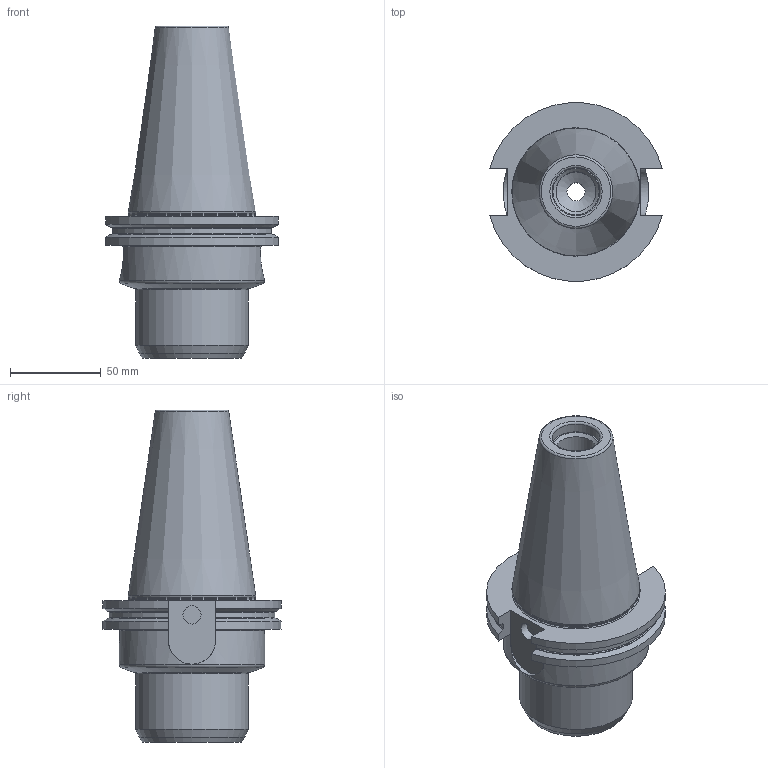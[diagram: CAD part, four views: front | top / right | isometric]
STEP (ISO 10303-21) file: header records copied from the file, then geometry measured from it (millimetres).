
FILE_DESCRIPTION( ( 'STEP AP214' ), '1' );
FILE_NAME( 'X:/Denzer2/tendo_platinum_skg/SCHUNK-1447940 TENDO P CAT50 D1 1_4x81.stp', '2022-11-09T07:55:40', ( '' ), ( '' ), ' ', 'PARTsolutions', ' ' );
FILE_SCHEMA( ( 'AUTOMOTIVE_DESIGN { 1 0 10303 214 1 1 1 1 }' ) );
Length unit declared in the file: millimetre
Products named in the file (1): _SCHUNK-1447940 TENDO P CAT50 D1 1/4x81, 60.5
Bounding box: 94.95 x 98.05 x 182.6 mm (x, y, z)
Volume: 512061.7 mm3; surface area: 61004.7 mm2
Topology: 1 solids, 1 shells, 59 faces, 149 edges, 95 vertices
Faces by surface type: plane 19, cylinder 16, cone 12, torus 12
Full cylindrical faces by diameter (mm): 10 x2, 21.963 x1, 26.38 x1, 31.75 x1, 62 x1, 69.447 x1, 80 x1
Entity records: 2236 total; most frequent: CARTESIAN_POINT 456, DIRECTION 272, ORIENTED_EDGE 240, EDGE_CURVE 120, AXIS2_PLACEMENT_3D 114, VERTEX_POINT 88, EDGE_LOOP 86, FACE_OUTER_BOUND 73
